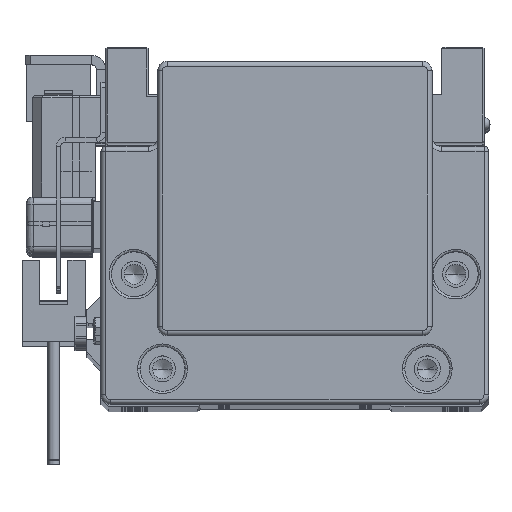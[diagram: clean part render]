
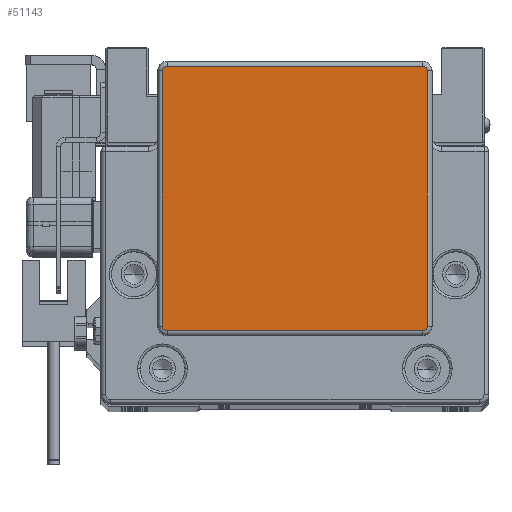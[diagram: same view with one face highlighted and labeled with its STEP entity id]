
A CAD part, top view. The second image highlights one B-rep face of the part: STEP entity #51143.
In plain terms, the highlighted planar face has unit normal (0, 0, 1).
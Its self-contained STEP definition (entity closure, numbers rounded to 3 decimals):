
#708 = VERTEX_POINT ( 'NONE', #25447 ) ;
#1102 = AXIS2_PLACEMENT_3D ( 'NONE', #2993, #27459, #11141 ) ;
#2272 = CARTESIAN_POINT ( 'NONE',  ( 28., 34.25, 17. ) ) ;
#2993 = CARTESIAN_POINT ( 'NONE',  ( 27., -19.75, 17. ) ) ;
#6108 = EDGE_CURVE ( 'NONE', #49792, #25436, #15026, .T. ) ;
#7232 = ORIENTED_EDGE ( 'NONE', *, *, #40255, .T. ) ;
#7502 = EDGE_CURVE ( 'NONE', #50062, #708, #50606, .T. ) ;
#9026 = CARTESIAN_POINT ( 'NONE',  ( -27., -19.75, 17. ) ) ;
#10679 = VERTEX_POINT ( 'NONE', #52195 ) ;
#11141 = DIRECTION ( 'NONE',  ( 1., 0., 0. ) ) ;
#11791 = EDGE_CURVE ( 'NONE', #708, #10679, #52978, .T. ) ;
#12026 = CARTESIAN_POINT ( 'NONE',  ( -28., -19.75, 17. ) ) ;
#12291 = CARTESIAN_POINT ( 'NONE',  ( 28., -19.75, 17. ) ) ;
#12306 = DIRECTION ( 'NONE',  ( 0., 0., 1. ) ) ;
#12891 = DIRECTION ( 'NONE',  ( 1., 0., 0. ) ) ;
#13111 = ORIENTED_EDGE ( 'NONE', *, *, #14683, .T. ) ;
#14683 = EDGE_CURVE ( 'NONE', #22564, #20453, #52402, .T. ) ;
#15026 = LINE ( 'NONE', #2272, #29414 ) ;
#16579 = DIRECTION ( 'NONE',  ( 1., 0., 0. ) ) ;
#19100 = EDGE_CURVE ( 'NONE', #10679, #22564, #49250, .T. ) ;
#19433 = ORIENTED_EDGE ( 'NONE', *, *, #19100, .T. ) ;
#19695 = EDGE_CURVE ( 'NONE', #20453, #38705, #42111, .T. ) ;
#20268 = ORIENTED_EDGE ( 'NONE', *, *, #11791, .T. ) ;
#20281 = AXIS2_PLACEMENT_3D ( 'NONE', #45121, #32096, #24482 ) ;
#20453 = VERTEX_POINT ( 'NONE', #48257 ) ;
#22318 = ORIENTED_EDGE ( 'NONE', *, *, #45410, .T. ) ;
#22564 = VERTEX_POINT ( 'NONE', #49450 ) ;
#22613 = AXIS2_PLACEMENT_3D ( 'NONE', #30282, #34619, #12891 ) ;
#24482 = DIRECTION ( 'NONE',  ( 1., 0., 0. ) ) ;
#24553 = CARTESIAN_POINT ( 'NONE',  ( 28., 34.25, 17. ) ) ;
#25092 = ORIENTED_EDGE ( 'NONE', *, *, #7502, .T. ) ;
#25436 = VERTEX_POINT ( 'NONE', #24553 ) ;
#25447 = CARTESIAN_POINT ( 'NONE',  ( -27., 35.25, 17. ) ) ;
#27008 = DIRECTION ( 'NONE',  ( 0., 1., 0. ) ) ;
#27360 = CARTESIAN_POINT ( 'NONE',  ( 27., 34.25, 17. ) ) ;
#27459 = DIRECTION ( 'NONE',  ( 0., 0., 1. ) ) ;
#29414 = VECTOR ( 'NONE', #27008, 1000. ) ;
#30282 = CARTESIAN_POINT ( 'NONE',  ( -27., 34.25, 17. ) ) ;
#30496 = CARTESIAN_POINT ( 'NONE',  ( -27., 35.25, 17. ) ) ;
#30846 = EDGE_LOOP ( 'NONE', ( #25092, #20268, #19433, #13111, #36506, #22318, #35873, #7232 ) ) ;
#30895 = DIRECTION ( 'NONE',  ( 0., 0., 1. ) ) ;
#31245 = VECTOR ( 'NONE', #45176, 1000. ) ;
#31285 = CARTESIAN_POINT ( 'NONE',  ( 27., 35.25, 17. ) ) ;
#31315 = VECTOR ( 'NONE', #16579, 1000. ) ;
#32096 = DIRECTION ( 'NONE',  ( 0., 0., 1. ) ) ;
#32970 = PLANE ( 'NONE',  #37063 ) ;
#34619 = DIRECTION ( 'NONE',  ( 0., 0., 1. ) ) ;
#35873 = ORIENTED_EDGE ( 'NONE', *, *, #6108, .T. ) ;
#36378 = CARTESIAN_POINT ( 'NONE',  ( 27., -20.75, 17. ) ) ;
#36506 = ORIENTED_EDGE ( 'NONE', *, *, #19695, .T. ) ;
#37063 = AXIS2_PLACEMENT_3D ( 'NONE', #9026, #12306, #38394 ) ;
#38394 = DIRECTION ( 'NONE',  ( 1., 0., 0. ) ) ;
#38705 = VERTEX_POINT ( 'NONE', #36378 ) ;
#39810 = CIRCLE ( 'NONE', #53692, 1. ) ;
#40255 = EDGE_CURVE ( 'NONE', #25436, #50062, #39810, .T. ) ;
#42111 = LINE ( 'NONE', #49997, #31315 ) ;
#44620 = VECTOR ( 'NONE', #51684, 1000. ) ;
#45121 = CARTESIAN_POINT ( 'NONE',  ( -27., -19.75, 17. ) ) ;
#45176 = DIRECTION ( 'NONE',  ( 0., -1., 0. ) ) ;
#45410 = EDGE_CURVE ( 'NONE', #38705, #49792, #48835, .T. ) ;
#46524 = FACE_OUTER_BOUND ( 'NONE', #30846, .T. ) ;
#47469 = DIRECTION ( 'NONE',  ( 1., 0., 0. ) ) ;
#48257 = CARTESIAN_POINT ( 'NONE',  ( -27., -20.75, 17. ) ) ;
#48835 = CIRCLE ( 'NONE', #1102, 1. ) ;
#49250 = LINE ( 'NONE', #12026, #31245 ) ;
#49450 = CARTESIAN_POINT ( 'NONE',  ( -28., -19.75, 17. ) ) ;
#49792 = VERTEX_POINT ( 'NONE', #12291 ) ;
#49997 = CARTESIAN_POINT ( 'NONE',  ( 27., -20.75, 17. ) ) ;
#50062 = VERTEX_POINT ( 'NONE', #31285 ) ;
#50606 = LINE ( 'NONE', #30496, #44620 ) ;
#51143 = ADVANCED_FACE ( 'NONE', ( #46524 ), #32970, .T. ) ;
#51684 = DIRECTION ( 'NONE',  ( -1., 0., 0. ) ) ;
#52195 = CARTESIAN_POINT ( 'NONE',  ( -28., 34.25, 17. ) ) ;
#52402 = CIRCLE ( 'NONE', #20281, 1. ) ;
#52978 = CIRCLE ( 'NONE', #22613, 1. ) ;
#53692 = AXIS2_PLACEMENT_3D ( 'NONE', #27360, #30895, #47469 ) ;
